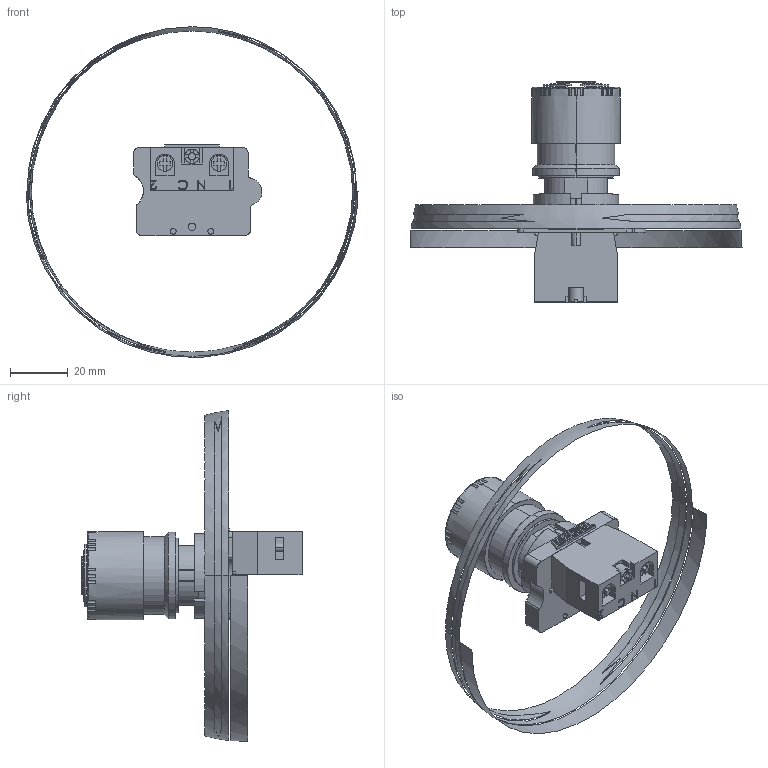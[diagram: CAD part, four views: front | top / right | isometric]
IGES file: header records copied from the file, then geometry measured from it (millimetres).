
Start section: SolidWorks IGES file using analytic representation for surfaces
Global section: file name: D:\X - Arquivos\PROEX\Empresas\P11 - METALTEX\01 - Produtos\IGES\Segunda remessa\P20AXR-R-1B.IGS; native system: SolidWorks 2012; preprocessor: SolidWorks 2012; author: Usuario; date: 180117.115829; units: millimetre
Bounding box: 114.95 x 76.41 x 114.47 mm (x, y, z)
Surface area: 16474.7 mm2 (no closed solid volume)
Topology: 0 solids, 0 shells, 451 faces, 4807 edges, 4806 vertices
Faces by surface type: bspline 326, revolution 125
